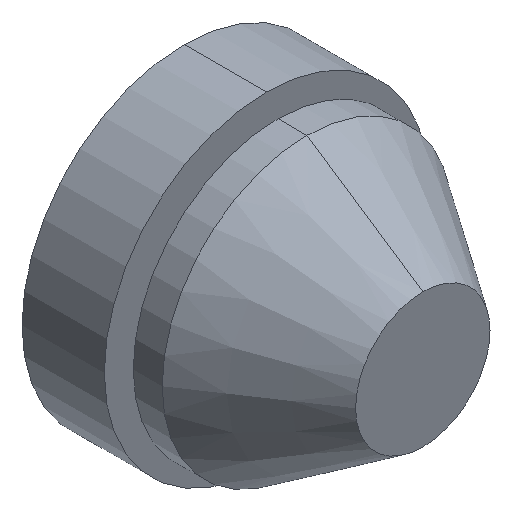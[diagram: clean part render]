
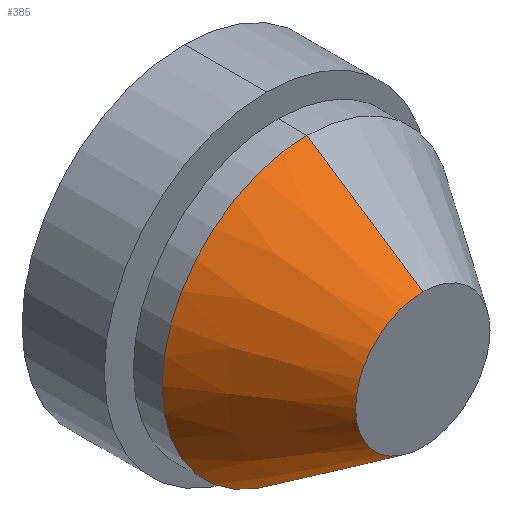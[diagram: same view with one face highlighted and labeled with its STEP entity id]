
A CAD part, isometric view. The second image highlights one B-rep face of the part: STEP entity #385.
In plain terms, the highlighted conical face has half-angle 33.82 degrees and reference radius 5.801 mm.
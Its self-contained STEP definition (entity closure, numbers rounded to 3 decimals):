
#53 = CARTESIAN_POINT ( 'NONE',  ( 0., 0., 0. ) ) ;
#54 = DIRECTION ( 'NONE',  ( 0., 1., 0. ) ) ;
#55 = DIRECTION ( 'NONE',  ( 0., 0., 1. ) ) ;
#83 = CARTESIAN_POINT ( 'NONE',  ( 0., 10., 0. ) ) ;
#84 = DIRECTION ( 'NONE',  ( 0., -1., 0. ) ) ;
#85 = DIRECTION ( 'NONE',  ( 0., 0., -1. ) ) ;
#86 = CARTESIAN_POINT ( 'NONE',  ( 0., 0., 5.801 ) ) ;
#87 = DIRECTION ( 'NONE',  ( 0., 0.831, 0.557 ) ) ;
#91 = CARTESIAN_POINT ( 'NONE',  ( 0., 0., 0. ) ) ;
#92 = DIRECTION ( 'NONE',  ( 0., 0., 1. ) ) ;
#96 = CARTESIAN_POINT ( 'NONE',  ( 0., 0., -5.801 ) ) ;
#97 = DIRECTION ( 'NONE',  ( 0., 0.831, -0.557 ) ) ;
#98 = DIRECTION ( 'NONE',  ( 0., 1., 0. ) ) ;
#158 = CARTESIAN_POINT ( 'NONE',  ( 0., 10., 12.5 ) ) ;
#160 = CARTESIAN_POINT ( 'NONE',  ( 0., 10., -12.5 ) ) ;
#162 = CARTESIAN_POINT ( 'NONE',  ( 0., 0., -5.801 ) ) ;
#164 = CARTESIAN_POINT ( 'NONE',  ( 0., 0., 5.801 ) ) ;
#186 = ORIENTED_EDGE ( 'NONE', *, *, #283, .T. ) ;
#192 = ORIENTED_EDGE ( 'NONE', *, *, #280, .T. ) ;
#195 = ORIENTED_EDGE ( 'NONE', *, *, #264, .T. ) ;
#200 = ORIENTED_EDGE ( 'NONE', *, *, #284, .F. ) ;
#235 = AXIS2_PLACEMENT_3D ( 'NONE', #91, #98, #92 ) ;
#239 = AXIS2_PLACEMENT_3D ( 'NONE', #83, #84, #85 ) ;
#245 = AXIS2_PLACEMENT_3D ( 'NONE', #53, #54, #55 ) ;
#264 = EDGE_CURVE ( 'NONE', #428, #432, #300, .T. ) ;
#280 = EDGE_CURVE ( 'NONE', #414, #424, #373, .T. ) ;
#283 = EDGE_CURVE ( 'NONE', #432, #414, #372, .T. ) ;
#284 = EDGE_CURVE ( 'NONE', #428, #424, #369, .T. ) ;
#300 = CIRCLE ( 'NONE', #245, 5.801 ) ;
#317 = FACE_OUTER_BOUND ( 'NONE', #439, .T. ) ;
#362 = CONICAL_SURFACE ( 'NONE', #235, 5.801, 0.59 ) ;
#369 = LINE ( 'NONE', #96, #374 ) ;
#370 = VECTOR ( 'NONE', #87, 1000. ) ;
#372 = LINE ( 'NONE', #86, #370 ) ;
#373 = CIRCLE ( 'NONE', #239, 12.5 ) ;
#374 = VECTOR ( 'NONE', #97, 1000. ) ;
#385 = ADVANCED_FACE ( 'NONE', ( #317 ), #362, .T. ) ;
#414 = VERTEX_POINT ( 'NONE', #158 ) ;
#424 = VERTEX_POINT ( 'NONE', #160 ) ;
#428 = VERTEX_POINT ( 'NONE', #162 ) ;
#432 = VERTEX_POINT ( 'NONE', #164 ) ;
#439 = EDGE_LOOP ( 'NONE', ( #200, #195, #186, #192 ) ) ;
